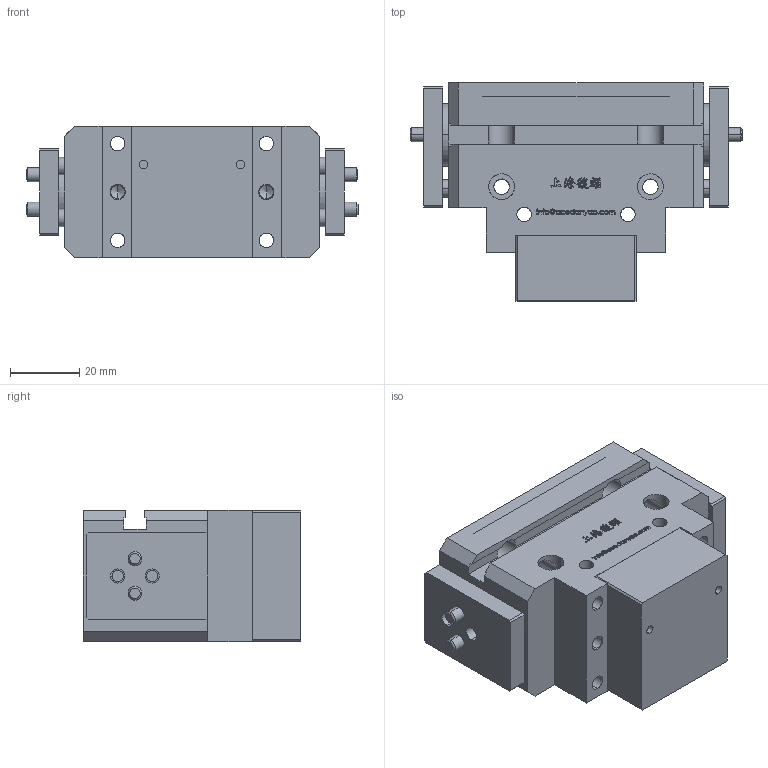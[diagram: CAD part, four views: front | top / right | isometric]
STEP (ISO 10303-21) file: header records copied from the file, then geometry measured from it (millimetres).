
FILE_DESCRIPTION (( 'STEP AP203' ), '1' );
FILE_NAME ('SRO-64-MA&MC-原始檔-組合-W106.04.20.STEP', '2017-04-20T07:56:57', ( 'DanyaoCAD' ), ( '' ), 'SwSTEP 2.0', 'SolidWorks 2016', '' );
FILE_SCHEMA (( 'CONFIG_CONTROL_DESIGN' ));
Length unit declared in the file: millimetre
Products named in the file (4): Corpo; Fondello; Griffa; SRO-64-MA&MC-原始檔-組合-W106.04.20
Assembly tree (4 placements, depth 2):
  SRO-64-MA&MC-原始檔-組合-W106.04.20
    Corpo
    Fondello
    Griffa  x2
Bounding box: 96 x 63 x 38 mm (x, y, z)
Volume: 142728.3 mm3; surface area: 42779 mm2
Topology: 4 solids, 4 shells, 1016 faces, 2786 edges, 1840 vertices
Faces by surface type: bspline 640, plane 252, cylinder 100, cone 24
Entity records: 51360 total; most frequent: CARTESIAN_POINT 30610, ORIENTED_EDGE 5384, EDGE_CURVE 2692, DIRECTION 2042, VERTEX_POINT 1784, B_SPLINE_CURVE_WITH_KNOTS 1402, LINE 1222, VECTOR 1222
